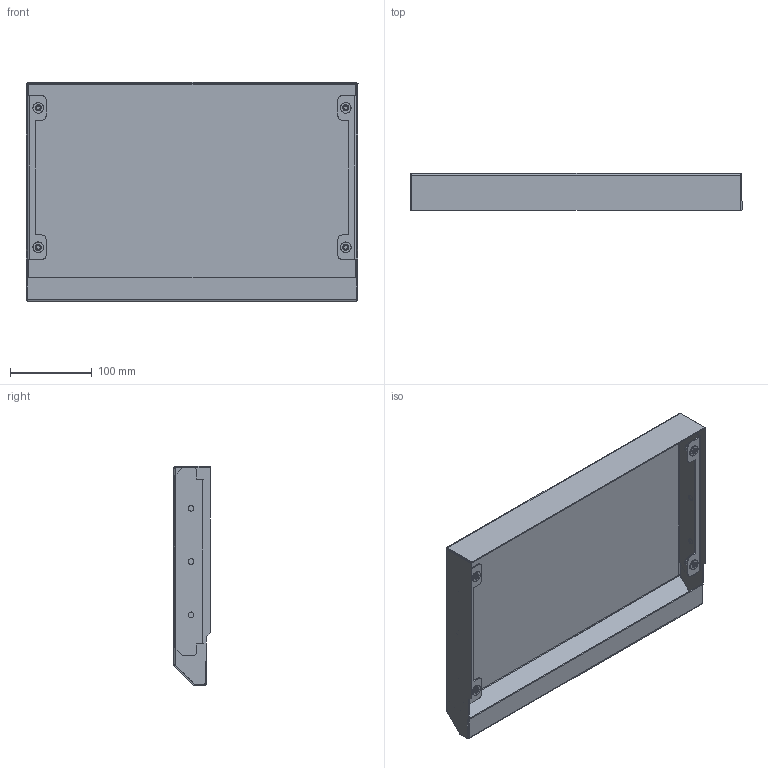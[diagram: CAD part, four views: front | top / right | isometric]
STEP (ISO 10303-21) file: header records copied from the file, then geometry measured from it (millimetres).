
FILE_DESCRIPTION (( 'STEP AP214' ), '1' );
FILE_NAME ('RKC 40.25 ﾊ鰀靍裲 鈞隆.STEP', '2023-07-29T07:49:23', ( '' ), ( '' ), 'SwSTEP 2.0', 'SolidWorks 2019', '' );
FILE_SCHEMA (( 'AUTOMOTIVE_DESIGN' ));
Length unit declared in the file: millimetre
Products named in the file (4): RKC 40.25 ﾊ鰀靍裲 鈞隆; Ãàéêà-çàêë¸ïêà Ì6; RKC Z 01.002 扰鍙欙樥燲RKC 25; RKC Y.Z 01.001 扻踑謥獥RKC 40.25
Assembly tree (7 placements, depth 2):
  RKC 40.25 ﾊ鰀靍裲 鈞隆
    RKC Y.Z 01.001 扻踑謥獥RKC 40.25
    RKC Z 01.002 扰鍙欙樥燲RKC 25  x2
    Ãàéêà-çàêë¸ïêà Ì6  x4
Bounding box: 405 x 45 x 268 mm (x, y, z)
Volume: 265636.4 mm3; surface area: 384264.6 mm2
Topology: 7 solids, 7 shells, 420 faces, 1046 edges, 656 vertices
Faces by surface type: cylinder 214, plane 136, torus 40, bspline 30
Entity records: 8259 total; most frequent: CARTESIAN_POINT 2983, ORIENTED_EDGE 1112, DIRECTION 1024, EDGE_CURVE 556, AXIS2_PLACEMENT_3D 372, VERTEX_POINT 347, LINE 280, VECTOR 280
